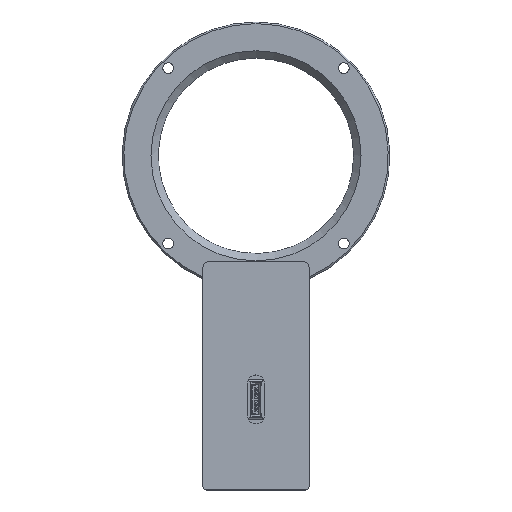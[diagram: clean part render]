
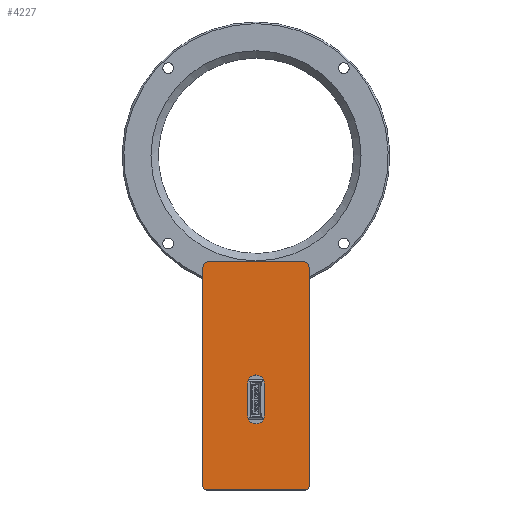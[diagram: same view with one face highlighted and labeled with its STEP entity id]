
A CAD part, top view. The second image highlights one B-rep face of the part: STEP entity #4227.
In plain terms, the highlighted planar face has unit normal (0, 0, 1).
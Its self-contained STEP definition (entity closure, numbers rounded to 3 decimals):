
#115 = FACE_BOUND ( 'NONE', #1235, .T. ) ;
#225 = CARTESIAN_POINT ( 'NONE',  ( -78.86, -61.555, -6.458 ) ) ;
#241 = CARTESIAN_POINT ( 'NONE',  ( -76.86, 7.445, -6.458 ) ) ;
#385 = VECTOR ( 'NONE', #2218, 1000. ) ;
#391 = DIRECTION ( 'NONE',  ( 0., -1., 0. ) ) ;
#439 = CARTESIAN_POINT ( 'NONE',  ( -46.36, 5.445, -6.458 ) ) ;
#440 = DIRECTION ( 'NONE',  ( 0., 0., 1. ) ) ;
#447 = CARTESIAN_POINT ( 'NONE',  ( -76.86, 5.445, -6.458 ) ) ;
#480 = VERTEX_POINT ( 'NONE', #1946 ) ;
#520 = VECTOR ( 'NONE', #5309, 1000. ) ;
#581 = VERTEX_POINT ( 'NONE', #4583 ) ;
#665 = CARTESIAN_POINT ( 'NONE',  ( -47.36, -62.555, -6.458 ) ) ;
#681 = EDGE_CURVE ( 'NONE', #1269, #3299, #4980, .T. ) ;
#733 = LINE ( 'NONE', #2748, #385 ) ;
#924 = ORIENTED_EDGE ( 'NONE', *, *, #1365, .T. ) ;
#968 = ORIENTED_EDGE ( 'NONE', *, *, #2371, .T. ) ;
#973 = DIRECTION ( 'NONE',  ( 1., 0., 0. ) ) ;
#1014 = LINE ( 'NONE', #2066, #4277 ) ;
#1073 = FACE_OUTER_BOUND ( 'NONE', #5370, .T. ) ;
#1105 = ORIENTED_EDGE ( 'NONE', *, *, #3634, .F. ) ;
#1223 = CARTESIAN_POINT ( 'NONE',  ( -78.86, -62.555, -6.458 ) ) ;
#1231 = CARTESIAN_POINT ( 'NONE',  ( -77.86, -61.555, -6.458 ) ) ;
#1232 = EDGE_CURVE ( 'NONE', #4772, #5917, #1258, .T. ) ;
#1235 = EDGE_LOOP ( 'NONE', ( #3575, #3940, #1572, #1105 ) ) ;
#1237 = AXIS2_PLACEMENT_3D ( 'NONE', #1612, #6209, #1290 ) ;
#1258 = CIRCLE ( 'NONE', #2106, 2. ) ;
#1269 = VERTEX_POINT ( 'NONE', #5583 ) ;
#1290 = DIRECTION ( 'NONE',  ( 0., 1., 0. ) ) ;
#1312 = CARTESIAN_POINT ( 'NONE',  ( -48.36, 7.445, -6.458 ) ) ;
#1365 = EDGE_CURVE ( 'NONE', #5917, #2795, #3083, .T. ) ;
#1497 = PLANE ( 'NONE',  #5568 ) ;
#1572 = ORIENTED_EDGE ( 'NONE', *, *, #5149, .F. ) ;
#1612 = CARTESIAN_POINT ( 'NONE',  ( -47.36, -61.555, -6.458 ) ) ;
#1814 = ORIENTED_EDGE ( 'NONE', *, *, #1232, .T. ) ;
#1833 = EDGE_CURVE ( 'NONE', #2675, #3735, #6304, .T. ) ;
#1910 = VECTOR ( 'NONE', #391, 1000. ) ;
#1946 = CARTESIAN_POINT ( 'NONE',  ( -60.11, -29.855, -6.458 ) ) ;
#1963 = EDGE_CURVE ( 'NONE', #4566, #6046, #4506, .T. ) ;
#1994 = DIRECTION ( 'NONE',  ( 1., 0., 0. ) ) ;
#2066 = CARTESIAN_POINT ( 'NONE',  ( -65.11, -29.855, -6.458 ) ) ;
#2106 = AXIS2_PLACEMENT_3D ( 'NONE', #2504, #6511, #1994 ) ;
#2156 = LINE ( 'NONE', #3676, #4958 ) ;
#2218 = DIRECTION ( 'NONE',  ( 0., -1., 0. ) ) ;
#2371 = EDGE_CURVE ( 'NONE', #3299, #581, #3679, .T. ) ;
#2453 = CARTESIAN_POINT ( 'NONE',  ( -60.11, -39.855, -6.458 ) ) ;
#2497 = EDGE_CURVE ( 'NONE', #581, #2675, #6377, .T. ) ;
#2504 = CARTESIAN_POINT ( 'NONE',  ( -48.36, 5.445, -6.458 ) ) ;
#2596 = ORIENTED_EDGE ( 'NONE', *, *, #5625, .T. ) ;
#2675 = VERTEX_POINT ( 'NONE', #665 ) ;
#2748 = CARTESIAN_POINT ( 'NONE',  ( -46.36, -50.555, -6.458 ) ) ;
#2763 = DIRECTION ( 'NONE',  ( 0., 0., 1. ) ) ;
#2795 = VERTEX_POINT ( 'NONE', #241 ) ;
#2888 = EDGE_CURVE ( 'NONE', #4772, #3735, #733, .T. ) ;
#2931 = CARTESIAN_POINT ( 'NONE',  ( -62.61, -29.855, -6.458 ) ) ;
#2958 = CIRCLE ( 'NONE', #5261, 2. ) ;
#3050 = CARTESIAN_POINT ( 'NONE',  ( -78.86, -50.555, -6.458 ) ) ;
#3080 = ORIENTED_EDGE ( 'NONE', *, *, #1833, .T. ) ;
#3083 = LINE ( 'NONE', #4668, #4108 ) ;
#3090 = DIRECTION ( 'NONE',  ( 0., -1., 0. ) ) ;
#3130 = CARTESIAN_POINT ( 'NONE',  ( -46.36, -61.555, -6.458 ) ) ;
#3194 = DIRECTION ( 'NONE',  ( -1., 0., 0. ) ) ;
#3252 = DIRECTION ( 'NONE',  ( 0., 1., 0. ) ) ;
#3256 = EDGE_CURVE ( 'NONE', #4559, #4566, #1014, .T. ) ;
#3299 = VERTEX_POINT ( 'NONE', #225 ) ;
#3510 = DIRECTION ( 'NONE',  ( 0., 0., 1. ) ) ;
#3537 = ORIENTED_EDGE ( 'NONE', *, *, #2497, .T. ) ;
#3575 = ORIENTED_EDGE ( 'NONE', *, *, #1963, .F. ) ;
#3634 = EDGE_CURVE ( 'NONE', #6046, #480, #2156, .T. ) ;
#3676 = CARTESIAN_POINT ( 'NONE',  ( -60.11, -39.855, -6.458 ) ) ;
#3679 = CIRCLE ( 'NONE', #6201, 1. ) ;
#3735 = VERTEX_POINT ( 'NONE', #3130 ) ;
#3737 = CARTESIAN_POINT ( 'NONE',  ( -65.11, -29.855, -6.458 ) ) ;
#3836 = ORIENTED_EDGE ( 'NONE', *, *, #2888, .F. ) ;
#3940 = ORIENTED_EDGE ( 'NONE', *, *, #3256, .F. ) ;
#3990 = CARTESIAN_POINT ( 'NONE',  ( -62.61, -39.855, -6.458 ) ) ;
#4105 = DIRECTION ( 'NONE',  ( 0., 0., -1. ) ) ;
#4108 = VECTOR ( 'NONE', #3194, 1000. ) ;
#4227 = ADVANCED_FACE ( 'NONE', ( #1073, #115 ), #1497, .F. ) ;
#4240 = CARTESIAN_POINT ( 'NONE',  ( -65.11, -39.855, -6.458 ) ) ;
#4277 = VECTOR ( 'NONE', #3090, 1000. ) ;
#4340 = DIRECTION ( 'NONE',  ( 0., 0., 1. ) ) ;
#4506 = CIRCLE ( 'NONE', #5759, 2.5 ) ;
#4559 = VERTEX_POINT ( 'NONE', #3737 ) ;
#4566 = VERTEX_POINT ( 'NONE', #4240 ) ;
#4583 = CARTESIAN_POINT ( 'NONE',  ( -77.86, -62.555, -6.458 ) ) ;
#4668 = CARTESIAN_POINT ( 'NONE',  ( -48.36, 7.445, -6.458 ) ) ;
#4671 = ORIENTED_EDGE ( 'NONE', *, *, #681, .T. ) ;
#4772 = VERTEX_POINT ( 'NONE', #439 ) ;
#4845 = CARTESIAN_POINT ( 'NONE',  ( -78.86, -50.555, -6.458 ) ) ;
#4958 = VECTOR ( 'NONE', #3252, 1000. ) ;
#4980 = LINE ( 'NONE', #4845, #1910 ) ;
#5048 = CIRCLE ( 'NONE', #5675, 2.5 ) ;
#5149 = EDGE_CURVE ( 'NONE', #480, #4559, #5048, .T. ) ;
#5261 = AXIS2_PLACEMENT_3D ( 'NONE', #447, #4340, #5904 ) ;
#5309 = DIRECTION ( 'NONE',  ( 1., 0., 0. ) ) ;
#5370 = EDGE_LOOP ( 'NONE', ( #4671, #968, #3537, #3080, #3836, #1814, #924, #2596 ) ) ;
#5568 = AXIS2_PLACEMENT_3D ( 'NONE', #3050, #4105, #6118 ) ;
#5583 = CARTESIAN_POINT ( 'NONE',  ( -78.86, 5.445, -6.458 ) ) ;
#5625 = EDGE_CURVE ( 'NONE', #2795, #1269, #2958, .T. ) ;
#5675 = AXIS2_PLACEMENT_3D ( 'NONE', #2931, #3510, #5883 ) ;
#5743 = DIRECTION ( 'NONE',  ( 0., 1., 0. ) ) ;
#5759 = AXIS2_PLACEMENT_3D ( 'NONE', #3990, #440, #973 ) ;
#5883 = DIRECTION ( 'NONE',  ( 1., 0., 0. ) ) ;
#5904 = DIRECTION ( 'NONE',  ( 1., 0., 0. ) ) ;
#5917 = VERTEX_POINT ( 'NONE', #1312 ) ;
#6046 = VERTEX_POINT ( 'NONE', #2453 ) ;
#6118 = DIRECTION ( 'NONE',  ( 0., 1., 0. ) ) ;
#6201 = AXIS2_PLACEMENT_3D ( 'NONE', #1231, #2763, #5743 ) ;
#6209 = DIRECTION ( 'NONE',  ( 0., 0., 1. ) ) ;
#6304 = CIRCLE ( 'NONE', #1237, 1. ) ;
#6377 = LINE ( 'NONE', #1223, #520 ) ;
#6511 = DIRECTION ( 'NONE',  ( 0., 0., 1. ) ) ;
